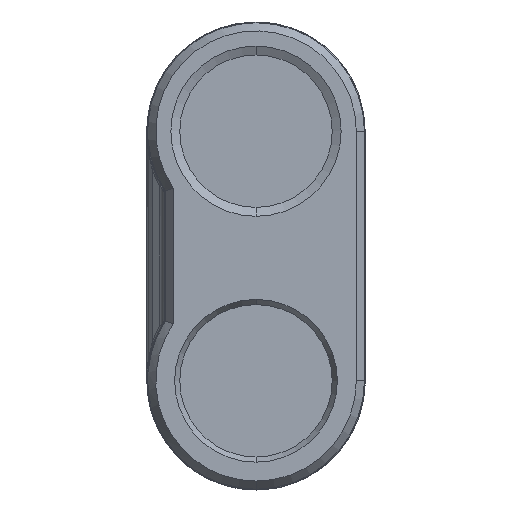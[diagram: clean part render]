
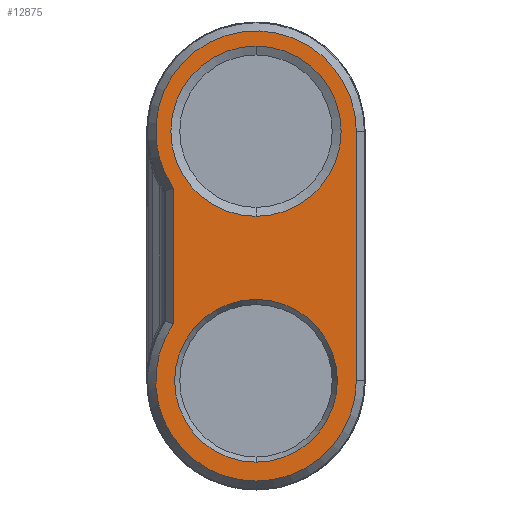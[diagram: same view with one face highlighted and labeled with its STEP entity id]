
A CAD part, left-side view. The second image highlights one B-rep face of the part: STEP entity #12875.
In plain terms, the highlighted planar face has unit normal (-1, 0, 0).
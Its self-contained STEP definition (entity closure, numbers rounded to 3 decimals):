
#1408 = EDGE_CURVE ( 'NONE', #9502, #9801, #3536, .T. ) ;
#1451 = EDGE_CURVE ( 'NONE', #9671, #9668, #3668, .T. ) ;
#1599 = EDGE_CURVE ( 'NONE', #9562, #9780, #4221, .T. ) ;
#3536 = CIRCLE ( 'NONE', #41283, 9.127 ) ;
#3668 = CIRCLE ( 'NONE', #14529, 11.25 ) ;
#4221 = CIRCLE ( 'NONE', #14559, 9.55 ) ;
#7994 = CIRCLE ( 'NONE', #44982, 9.127 ) ;
#8006 = CIRCLE ( 'NONE', #44981, 11.25 ) ;
#8848 = CARTESIAN_POINT ( 'NONE',  ( -28.15, 0., 7.65 ) ) ;
#8874 = DIRECTION ( 'NONE',  ( -1., 0., 0. ) ) ;
#8875 = DIRECTION ( 'NONE',  ( 0., 0., 1. ) ) ;
#8970 = CARTESIAN_POINT ( 'NONE',  ( -28.15, 0., 7.65 ) ) ;
#8978 = DIRECTION ( 'NONE',  ( 1., 0., 0. ) ) ;
#8979 = DIRECTION ( 'NONE',  ( 0., 0., 1. ) ) ;
#9502 = VERTEX_POINT ( 'NONE', #43086 ) ;
#9562 = VERTEX_POINT ( 'NONE', #43146 ) ;
#9668 = VERTEX_POINT ( 'NONE', #43251 ) ;
#9671 = VERTEX_POINT ( 'NONE', #43254 ) ;
#9780 = VERTEX_POINT ( 'NONE', #43362 ) ;
#9801 = VERTEX_POINT ( 'NONE', #43383 ) ;
#9984 = CARTESIAN_POINT ( 'NONE',  ( -28.15, 0., -20.35 ) ) ;
#9985 = DIRECTION ( 'NONE',  ( 1., 0., 0. ) ) ;
#9986 = DIRECTION ( 'NONE',  ( 0., 0., 1. ) ) ;
#10205 = CARTESIAN_POINT ( 'NONE',  ( -28.15, 0., -20.35 ) ) ;
#10206 = DIRECTION ( 'NONE',  ( -1., 0., 0. ) ) ;
#10207 = DIRECTION ( 'NONE',  ( 0., 0., 1. ) ) ;
#12875 = ADVANCED_FACE ( 'NONE', ( #12936, #12944, #12948 ), #36706, .T. ) ;
#12936 = FACE_BOUND ( 'NONE', #41818, .T. ) ;
#12944 = FACE_BOUND ( 'NONE', #32498, .T. ) ;
#12948 = FACE_OUTER_BOUND ( 'NONE', #32493, .T. ) ;
#14529 = AXIS2_PLACEMENT_3D ( 'NONE', #10205, #10206, #10207 ) ;
#14559 = AXIS2_PLACEMENT_3D ( 'NONE', #42704, #42705, #42706 ) ;
#15742 = AXIS2_PLACEMENT_3D ( 'NONE', #36705, #36707, #36708 ) ;
#17626 = CARTESIAN_POINT ( 'NONE',  ( -28.15, 0., -20.35 ) ) ;
#17702 = CARTESIAN_POINT ( 'NONE',  ( -28.15, 0., -20.35 ) ) ;
#17703 = DIRECTION ( 'NONE',  ( 1., 0., 0. ) ) ;
#17704 = DIRECTION ( 'NONE',  ( 0., 0., 1. ) ) ;
#17719 = DIRECTION ( 'NONE',  ( -1., 0., 0. ) ) ;
#17720 = DIRECTION ( 'NONE',  ( 0., 0., 1. ) ) ;
#20477 = CARTESIAN_POINT ( 'NONE',  ( -28.15, -11.25, 7.65 ) ) ;
#20478 = CARTESIAN_POINT ( 'NONE',  ( -28.15, 9.25, 1.247 ) ) ;
#20479 = CARTESIAN_POINT ( 'NONE',  ( -28.15, 9.25, -13.947 ) ) ;
#22234 = VERTEX_POINT ( 'NONE', #20477 ) ;
#22235 = VERTEX_POINT ( 'NONE', #20478 ) ;
#22236 = VERTEX_POINT ( 'NONE', #20479 ) ;
#25322 = CARTESIAN_POINT ( 'NONE',  ( -28.15, 9.25, -13.642 ) ) ;
#25324 = DIRECTION ( 'NONE',  ( 0., 0., -1. ) ) ;
#25605 = LINE ( 'NONE', #47753, #25607 ) ;
#25607 = VECTOR ( 'NONE', #47754, 1000. ) ;
#26347 = LINE ( 'NONE', #25322, #26348 ) ;
#26348 = VECTOR ( 'NONE', #25324, 1000. ) ;
#26666 = CIRCLE ( 'NONE', #44958, 11.25 ) ;
#26728 = CIRCLE ( 'NONE', #44959, 9.55 ) ;
#31581 = ORIENTED_EDGE ( 'NONE', *, *, #40931, .T. ) ;
#31657 = ORIENTED_EDGE ( 'NONE', *, *, #40186, .T. ) ;
#31667 = ORIENTED_EDGE ( 'NONE', *, *, #1451, .T. ) ;
#31669 = ORIENTED_EDGE ( 'NONE', *, *, #40752, .T. ) ;
#31671 = ORIENTED_EDGE ( 'NONE', *, *, #40745, .T. ) ;
#31673 = ORIENTED_EDGE ( 'NONE', *, *, #1408, .T. ) ;
#31679 = ORIENTED_EDGE ( 'NONE', *, *, #40385, .T. ) ;
#31681 = ORIENTED_EDGE ( 'NONE', *, *, #40350, .T. ) ;
#31691 = ORIENTED_EDGE ( 'NONE', *, *, #1599, .T. ) ;
#32493 = EDGE_LOOP ( 'NONE', ( #31581, #31681, #31657, #31669, #31667 ) ) ;
#32498 = EDGE_LOOP ( 'NONE', ( #31673, #31671 ) ) ;
#36705 = CARTESIAN_POINT ( 'NONE',  ( -28.15, 0., 7.65 ) ) ;
#36706 = PLANE ( 'NONE',  #15742 ) ;
#36707 = DIRECTION ( 'NONE',  ( -1., 0., 0. ) ) ;
#36708 = DIRECTION ( 'NONE',  ( 0., 0., 1. ) ) ;
#40186 = EDGE_CURVE ( 'NONE', #22235, #22236, #26347, .T. ) ;
#40350 = EDGE_CURVE ( 'NONE', #22234, #22235, #26666, .T. ) ;
#40385 = EDGE_CURVE ( 'NONE', #9780, #9562, #26728, .T. ) ;
#40745 = EDGE_CURVE ( 'NONE', #9801, #9502, #7994, .T. ) ;
#40752 = EDGE_CURVE ( 'NONE', #22236, #9671, #8006, .T. ) ;
#40931 = EDGE_CURVE ( 'NONE', #9668, #22234, #25605, .T. ) ;
#41283 = AXIS2_PLACEMENT_3D ( 'NONE', #9984, #9985, #9986 ) ;
#41818 = EDGE_LOOP ( 'NONE', ( #31691, #31679 ) ) ;
#42704 = CARTESIAN_POINT ( 'NONE',  ( -28.15, 0., 7.65 ) ) ;
#42705 = DIRECTION ( 'NONE',  ( 1., 0., 0. ) ) ;
#42706 = DIRECTION ( 'NONE',  ( 0., 0., 1. ) ) ;
#43086 = CARTESIAN_POINT ( 'NONE',  ( -28.15, 0., -11.223 ) ) ;
#43146 = CARTESIAN_POINT ( 'NONE',  ( -28.15, 0., 17.2 ) ) ;
#43251 = CARTESIAN_POINT ( 'NONE',  ( -28.15, -11.25, -20.35 ) ) ;
#43254 = CARTESIAN_POINT ( 'NONE',  ( -28.15, 0., -31.6 ) ) ;
#43362 = CARTESIAN_POINT ( 'NONE',  ( -28.15, 0., -1.9 ) ) ;
#43383 = CARTESIAN_POINT ( 'NONE',  ( -28.15, 0., -29.477 ) ) ;
#44958 = AXIS2_PLACEMENT_3D ( 'NONE', #8848, #8874, #8875 ) ;
#44959 = AXIS2_PLACEMENT_3D ( 'NONE', #8970, #8978, #8979 ) ;
#44981 = AXIS2_PLACEMENT_3D ( 'NONE', #17702, #17719, #17720 ) ;
#44982 = AXIS2_PLACEMENT_3D ( 'NONE', #17626, #17703, #17704 ) ;
#47753 = CARTESIAN_POINT ( 'NONE',  ( -28.15, -11.25, 7.65 ) ) ;
#47754 = DIRECTION ( 'NONE',  ( 0., 0., 1. ) ) ;
